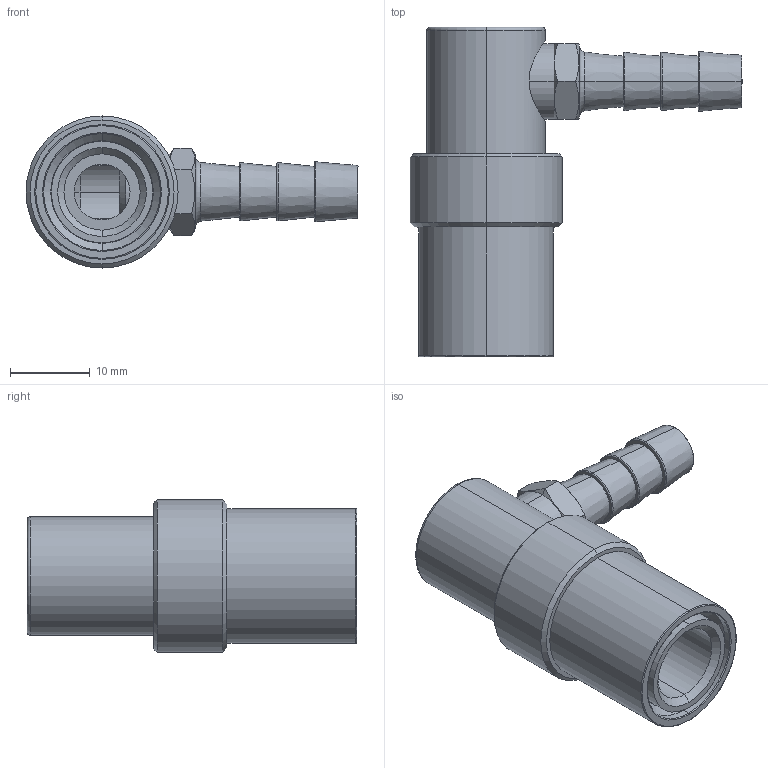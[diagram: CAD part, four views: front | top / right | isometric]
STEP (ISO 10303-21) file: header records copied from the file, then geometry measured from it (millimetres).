
FILE_DESCRIPTION (( 'STEP AP203' ), '1' );
FILE_NAME ('SC214.step', '2022-02-03T07:08:26', ( 'Microsoft Corporation' ), ( 'MS' ), 'SwSTEP 2.0', 'SolidWorks 2019', '' );
FILE_SCHEMA (( 'CONFIG_CONTROL_DESIGN' ));
Length unit declared in the file: inch
Products named in the file (1): SC214
Bounding box: 41.59 x 41.27 x 19.05 mm (x, y, z)
Volume: 7051.8 mm3; surface area: 7593.9 mm2
Topology: 4 solids, 4 shells, 119 faces, 250 edges, 144 vertices
Faces by surface type: cylinder 36, cone 34, torus 26, plane 23
Entity records: 3466 total; most frequent: CARTESIAN_POINT 781, DIRECTION 618, ORIENTED_EDGE 496, AXIS2_PLACEMENT_3D 270, EDGE_CURVE 248, CIRCLE 150, VERTEX_POINT 144, EDGE_LOOP 134
